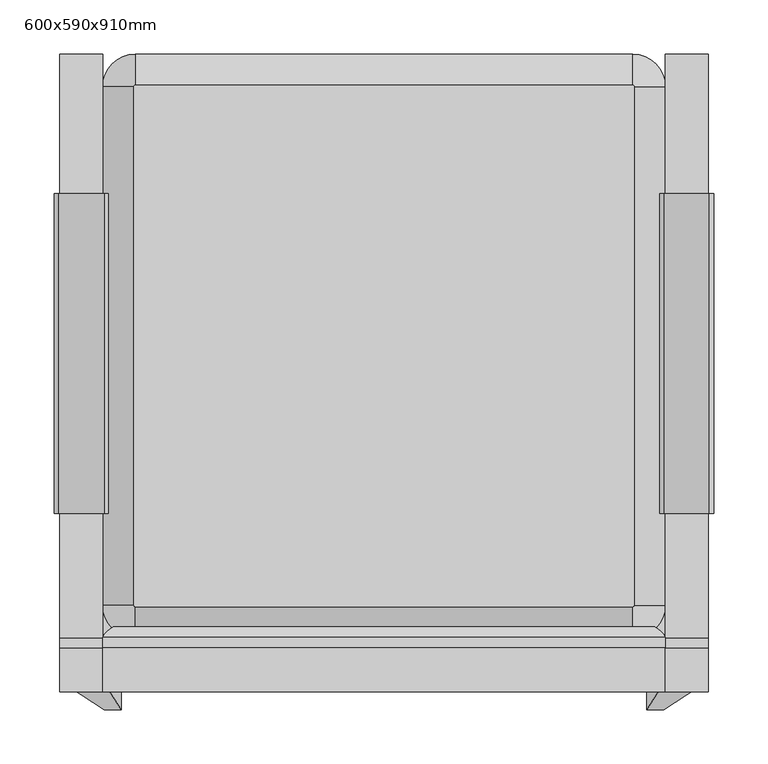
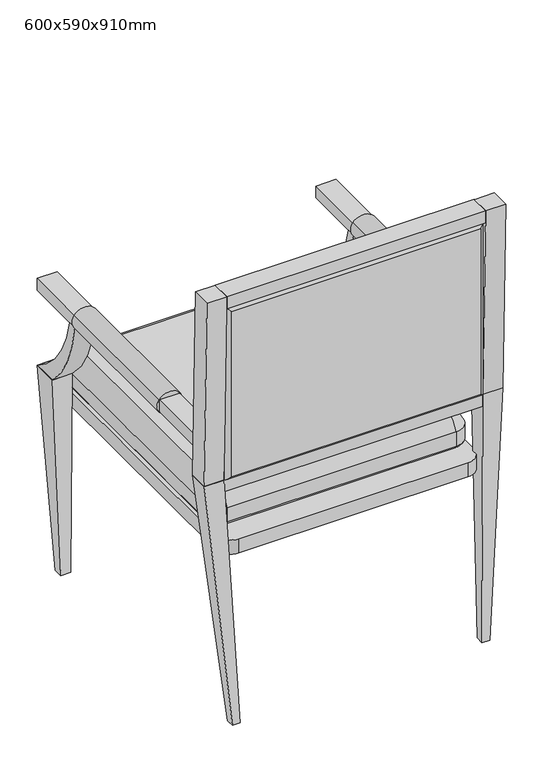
"""IFC4 building model written with IfcOpenShell, lengths in millimetres: furniture geometry, 의자 2 : 600x590x910mm."""

from ifc_helpers import new_model, si_unit, point, frame, frame_2d, origin, place, context, project, spatial, polyline, circle_curve, ellipse_curve, trimmed, segment, composite_curve, outline, extrude, faceted_brep, source, transform, mapped, element, save
from ifc_brep_helpers import plane_surface, cylinder_surface, revolved_surface, advanced_brep


def furniture_600x590x910mm_f1c21ba5(model_context):
    return source(origin(), model_context, "Body", "SolidModel", [
        extrude(outline(polyline([(-285.0, 505.0), (-295.0, 900.0), (-255.0, 900.0), (-245.0, 505.0), (-285.0, 505.0)])), frame((260.0, 0.0, 0.0), z_axis=(1.0, 0.0, 0.0), x_axis=(0.0, 1.0, 0.0)), (0.0, 0.0, 1.0), 40.0),
        faceted_brep([(260.0, 242.7525759, 411.2170586), (300.0, 242.7525759, 411.2170586), (300.0, 295.0, 411.2170586), (260.0, 295.0, 411.2170586), (270.2858385, 230.3179079, 0.0), (270.2858385, 250.3179079, 0.0), (290.2858385, 250.3179079, 0.0), (290.2858385, 230.3179079, 0.0)], [[[0, 1, 2, 3]], [[4, 5, 6, 7]], [[4, 0, 3, 5]], [[5, 3, 2, 6]], [[6, 2, 1, 7]], [[7, 1, 0, 4]]]),
        faceted_brep([(-260.0, 242.7525759, 411.2170586), (-260.0, 295.0, 411.2170586), (-300.0, 295.0, 411.2170586), (-300.0, 242.7525759, 411.2170586), (-270.2858385, 230.3179079, 0.0), (-290.2858385, 230.3179079, 0.0), (-290.2858385, 250.3179079, 0.0), (-270.2858385, 250.3179079, 0.0)], [[[0, 1, 2, 3]], [[4, 5, 6, 7]], [[4, 0, 3, 5]], [[5, 3, 2, 6]], [[6, 2, 1, 7]], [[7, 1, 0, 4]]]),
        extrude(outline(composite_curve([segment(trimmed(circle_curve(frame_2d((407.1028429, 609.2607604)), 227.57055), [point((183.0894066, 569.1816439))], [point((295.0, 411.2170586))], True, "CARTESIAN"), True, "CONTINUOUS"), segment(polyline([(295.0, 411.2170586), (242.7525759, 411.2170586)]), True, "CONTINUOUS"), segment(trimmed(circle_curve(frame_2d((407.9081208, 589.5396436)), 243.0541058), [point((242.7525759, 411.2170586))], [point((165.7080998, 569.1816439))], False, "CARTESIAN"), True, "CONTINUOUS"), segment(polyline([(165.7080998, 569.1816439), (183.0894066, 569.1816439)]), True, "CONTINUOUS")], self_intersect=False)), frame((260.0, 0.0, 0.0), z_axis=(1.0, 0.0, 0.0), x_axis=(0.0, 1.0, 0.0)), (0.0, 0.0, 1.0), 40.0),
        extrude(outline(composite_curve([segment(trimmed(circle_curve(frame_2d((407.1028429, 609.2607604)), 227.57055), [point((183.0894066, 569.1816439))], [point((295.0, 411.2170586))], True, "CARTESIAN"), True, "CONTINUOUS"), segment(polyline([(295.0, 411.2170586), (242.7525759, 411.2170586)]), True, "CONTINUOUS"), segment(trimmed(circle_curve(frame_2d((407.9081208, 589.5396436)), 243.0541058), [point((242.7525759, 411.2170586))], [point((165.7080998, 569.1816439))], False, "CARTESIAN"), True, "CONTINUOUS"), segment(polyline([(165.7080998, 569.1816439), (183.0894066, 569.1816439)]), True, "CONTINUOUS")], self_intersect=False)), frame((-300.0, 0.0, 0.0), z_axis=(1.0, 0.0, 0.0), x_axis=(0.0, 1.0, 0.0)), (0.0, 0.0, 1.0), 40.0),
        extrude(outline(composite_curve([segment(polyline([(230.0, -285.0), (-230.0, -285.0)]), True, "CONTINUOUS"), segment(trimmed(circle_curve(frame_2d((-230.0, -255.0)), 30.0), [point((-230.0, -285.0))], [point((-260.0, -255.0))], False, "CARTESIAN"), True, "CONTINUOUS"), segment(polyline([(-260.0, -255.0), (-260.0, 265.0)]), True, "CONTINUOUS"), segment(trimmed(circle_curve(frame_2d((-230.0, 265.0)), 30.0), [point((-260.0, 265.0))], [point((-230.0, 295.0))], False, "CARTESIAN"), True, "CONTINUOUS"), segment(polyline([(-230.0, 295.0), (230.0, 295.0)]), True, "CONTINUOUS"), segment(trimmed(circle_curve(frame_2d((230.0, 265.0)), 30.0), [point((230.0, 295.0))], [point((260.0, 265.0))], False, "CARTESIAN"), True, "CONTINUOUS"), segment(polyline([(260.0, 265.0), (260.0, -255.0)]), True, "CONTINUOUS"), segment(trimmed(circle_curve(frame_2d((230.0, -255.0)), 30.0), [point((260.0, -255.0))], [point((230.0, -285.0))], False, "CARTESIAN"), True, "CONTINUOUS")], self_intersect=False)), frame((0.0, 0.0, 340.0), z_axis=(0.0, 0.0, 1.0), x_axis=(1.0, 0.0, 0.0)), (0.0, 0.0, 1.0), 30.0),
        faceted_brep([(260.0, -285.0, 505.0), (300.0, -285.0, 505.0), (300.0, -245.0, 505.0), (260.0, -245.0, 505.0), (242.9406494, -311.5924294, 0.0), (242.9406494, -295.0, 0.0), (258.5439528, -295.0, 0.0), (258.5439528, -311.5924294, 0.0)], [[[0, 1, 2, 3]], [[4, 5, 6, 7]], [[3, 5, 4, 0]], [[2, 6, 5, 3]], [[1, 7, 6, 2]], [[0, 4, 7, 1]]]),
        advanced_brep(
        [(-250.3030294, -235.0, 865.3030294), (250.3030294, -235.0, 865.3030294), (250.3030294, -235.0, 514.6969706), (-250.3030294, -235.0, 514.6969706), (-250.3030294, -295.0, 514.6969706), (250.3030294, -295.0, 514.6969706), (250.3030294, -295.0, 865.3030294), (-250.3030294, -295.0, 865.3030294), (260.0, -244.6969706, 875.0), (-260.0, -244.6969706, 875.0), (-260.0, -285.3030294, 875.0), (260.0, -285.3030294, 875.0), (-260.0, -244.6969706, 505.0), (-260.0, -285.3030294, 505.0), (260.0, -244.6969706, 505.0), (260.0, -285.3030294, 505.0)],
        [
            (0, 1),
            (1, 2),
            (2, 3),
            (3, 0),
            (4, 5),
            (5, 6),
            (6, 7),
            (7, 4),
            (8, 9),
            (9, 10),
            (10, 11),
            (11, 8),
            (9, 12),
            (12, 13),
            (13, 10),
            (12, 14),
            (14, 15),
            (15, 13),
            (11, 15),
            (14, 8),
            (9, 0, ellipse_curve(frame((-242.3916398, -252.6083602, 857.3916398), z_axis=(-0.7071067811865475, 0.0, -0.7071067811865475), x_axis=(0.7071067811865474, 0.0, -0.7071067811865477)), 27.2999793, 19.3040005)),
            (3, 12, ellipse_curve(frame((-242.3916398, -252.6083602, 522.6083602), z_axis=(-0.7071067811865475, 0.0, 0.7071067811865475), x_axis=(-0.7071067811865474, 0.0, -0.7071067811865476)), 27.2999793, 19.3040005)),
            (7, 10, ellipse_curve(frame((-242.3916398, -277.3916398, 857.3916398), z_axis=(-0.7071067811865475, 0.0, -0.7071067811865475), x_axis=(0.7071067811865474, 0.0, -0.7071067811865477)), 27.2999793, 19.3040005)),
            (13, 4, ellipse_curve(frame((-242.3916398, -277.3916398, 522.6083602), z_axis=(-0.7071067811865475, 0.0, 0.7071067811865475), x_axis=(-0.7071067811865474, 0.0, -0.7071067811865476)), 27.2999793, 19.3040005)),
            (2, 14, ellipse_curve(frame((242.3916398, -252.6083602, 522.6083602), z_axis=(-0.7071067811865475, 0.0, -0.7071067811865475), x_axis=(0.7071067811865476, 0.0, -0.7071067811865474)), 27.2999793, 19.3040005)),
            (15, 5, ellipse_curve(frame((242.3916398, -277.3916398, 522.6083602), z_axis=(-0.7071067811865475, 0.0, -0.7071067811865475), x_axis=(0.7071067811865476, 0.0, -0.7071067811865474)), 27.2999793, 19.3040005)),
            (1, 8, ellipse_curve(frame((242.3916398, -252.6083602, 857.3916398), z_axis=(0.7071067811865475, 0.0, -0.7071067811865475), x_axis=(0.7071067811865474, 0.0, 0.7071067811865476)), 27.2999793, 19.3040005)),
            (11, 6, ellipse_curve(frame((242.3916398, -277.3916398, 857.3916398), z_axis=(0.7071067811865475, 0.0, -0.7071067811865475), x_axis=(0.7071067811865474, 0.0, 0.7071067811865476)), 27.2999793, 19.3040005)),
        ],
        [
            plane_surface(frame((-260.0, -235.0, 875.0), z_axis=(0.0, 1.0, 0.0), x_axis=(-1.0, 0.0, 0.0))),
            plane_surface(frame((-260.0, -295.0, 875.0), z_axis=(0.0, -1.0, 0.0), x_axis=(1.0, 0.0, 0.0))),
            plane_surface(frame((260.0, -235.0, 875.0), z_axis=(0.0, 0.0, 1.0), x_axis=(0.0, -1.0, 0.0))),
            plane_surface(frame((-260.0, -235.0, 875.0), z_axis=(-1.0, 0.0, 0.0), x_axis=(0.0, -1.0, 0.0))),
            plane_surface(frame((-260.0, -235.0, 505.0), z_axis=(0.0, 0.0, -1.0), x_axis=(0.0, -1.0, 0.0))),
            plane_surface(frame((260.0, -235.0, 505.0), z_axis=(1.0, 0.0, 0.0), x_axis=(0.0, -1.0, 0.0))),
            cylinder_surface(frame((-242.3916398, -252.6083602, 875.0), z_axis=(0.0, 0.0, -1.0), x_axis=(0.0, 1.0, 0.0)), 19.3040005),
            cylinder_surface(frame((-242.3916398, -277.3916398, 875.0), z_axis=(0.0, 0.0, -1.0), x_axis=(0.0, -1.0, 0.0)), 19.3040005),
            cylinder_surface(frame((-260.0, -252.6083602, 522.6083602), z_axis=(1.0, 0.0, 0.0), x_axis=(0.0, 1.0, 0.0)), 19.3040005),
            cylinder_surface(frame((-260.0, -277.3916398, 522.6083602), z_axis=(1.0, 0.0, 0.0), x_axis=(0.0, -1.0, 0.0)), 19.3040005),
            cylinder_surface(frame((242.3916398, -252.6083602, 505.0), z_axis=(0.0, 0.0, 1.0), x_axis=(0.0, 1.0, 0.0)), 19.3040005),
            cylinder_surface(frame((242.3916398, -277.3916398, 505.0), z_axis=(0.0, 0.0, 1.0), x_axis=(0.0, -1.0, 0.0)), 19.3040005),
            cylinder_surface(frame((260.0, -252.6083602, 857.3916398), z_axis=(-1.0, 0.0, 0.0), x_axis=(0.0, 1.0, 0.0)), 19.3040005),
            cylinder_surface(frame((260.0, -277.3916398, 857.3916398), z_axis=(-1.0, 0.0, 0.0), x_axis=(0.0, -1.0, 0.0)), 19.3040005),
        ],
        [
            (0, [[1, 2, 3, 4]]),
            (1, [[5, 6, 7, 8]]),
            (2, [[9, 10, 11, 12]]),
            (3, [[13, 14, 15, -10]]),
            (4, [[16, 17, 18, -14]]),
            (5, [[19, -17, 20, -12]]),
            (6, [[-13, 21, -4, 22]]),
            (7, [[-8, 23, -15, 24]]),
            (8, [[-3, 25, -16, -22]]),
            (9, [[-18, 26, -5, -24]]),
            (10, [[-2, 27, -20, -25]]),
            (11, [[-19, 28, -6, -26]]),
            (12, [[-9, -27, -1, -21]]),
            (13, [[-7, -28, -11, -23]]),
        ],
    ),
        extrude(outline(composite_curve([segment(trimmed(circle_curve(frame_2d((582.5283009, 278.7076401)), 23.8874144), [point((595.8749578, 258.8966504))], [point((569.1816439, 258.8966504))], False, "CARTESIAN"), True, "CONTINUOUS"), segment(trimmed(circle_curve(frame_2d((589.4784621, 279.9386265)), 29.2356903), [point((569.1816439, 258.8966504))], [point((569.1816439, 300.9806026))], False, "CARTESIAN"), True, "CONTINUOUS"), segment(trimmed(circle_curve(frame_2d((582.5283009, 281.2838217)), 23.7927811), [point((569.1816439, 300.9806026))], [point((595.8749578, 300.9806026))], False, "CARTESIAN"), True, "CONTINUOUS"), segment(trimmed(circle_curve(frame_2d((578.2866722, 279.9386265)), 27.4246704), [point((595.8749578, 300.9806026))], [point((595.8749578, 258.8966504))], False, "CARTESIAN"), True, "CONTINUOUS")], self_intersect=False), holes=[polyline([(595.0, 260.0), (595.0, 300.0), (570.0, 300.0), (570.0, 260.0), (595.0, 260.0)])]), frame((0.0, -129.9086932, 0.0), z_axis=(0.0, 1.0, 0.0), x_axis=(0.0, 0.0, 1.0)), (0.0, 0.0, 1.0), 295.616793),
        extrude(outline(composite_curve([segment(trimmed(circle_curve(frame_2d((578.2866722, -279.9386265)), 27.4246704), [point((595.8749578, -258.8966504))], [point((595.8749578, -300.9806026))], False, "CARTESIAN"), True, "CONTINUOUS"), segment(trimmed(circle_curve(frame_2d((582.5283009, -281.2838217)), 23.7927811), [point((595.8749578, -300.9806026))], [point((569.1816439, -300.9806026))], False, "CARTESIAN"), True, "CONTINUOUS"), segment(trimmed(circle_curve(frame_2d((589.4784621, -279.9386265)), 29.2356903), [point((569.1816439, -300.9806026))], [point((569.1816439, -258.8966504))], False, "CARTESIAN"), True, "CONTINUOUS"), segment(trimmed(circle_curve(frame_2d((582.5283009, -278.7076401)), 23.8874144), [point((569.1816439, -258.8966504))], [point((595.8749578, -258.8966504))], False, "CARTESIAN"), True, "CONTINUOUS")], self_intersect=False), holes=[polyline([(595.0, -260.0), (570.0, -260.0), (570.0, -300.0), (595.0, -300.0), (595.0, -260.0)])]), frame((0.0, -129.9086932, 0.0), z_axis=(0.0, 1.0, 0.0), x_axis=(0.0, 0.0, 1.0)), (0.0, 0.0, 1.0), 295.616793),
        faceted_brep([(-300.0, 295.0, 595.0), (-300.0, 295.0, 570.0), (-300.0, -245.0, 570.0), (-300.0, -245.0, 595.0), (-260.0, 295.0, 595.0), (-260.0, -235.0, 595.0), (-260.0, -244.6969706, 595.0), (-260.0, -245.0, 595.0), (-260.0, -245.0, 570.0), (-260.0, -244.6969706, 570.0), (-260.0, -235.0, 570.0), (-260.0, 295.0, 570.0)], [[[0, 1, 2, 3]], [[4, 5, 6, 7, 8, 9, 10, 11]], [[3, 7, 6, 5, 4, 0]], [[2, 8, 7, 3]], [[1, 11, 10, 9, 8, 2]], [[0, 4, 11, 1]]]),
        faceted_brep([(300.0, 295.0, 595.0), (300.0, -245.0, 595.0), (300.0, -245.0, 570.0), (300.0, 295.0, 570.0), (260.0, -245.0, 595.0), (260.0, -244.6969706, 595.0), (260.0, -235.0, 595.0), (260.0, 295.0, 595.0), (260.0, 295.0, 570.0), (260.0, -235.0, 570.0), (260.0, -244.6969706, 570.0), (260.0, -245.0, 570.0)], [[[0, 1, 2, 3]], [[4, 5, 6, 7, 8, 9, 10, 11]], [[3, 8, 7, 0]], [[2, 11, 10, 9, 8, 3]], [[1, 4, 11, 2]], [[0, 7, 6, 5, 4, 1]]]),
        faceted_brep([(260.0, -254.4011762, 900.0), (260.0, -254.4011762, 875.0), (-260.0, -254.4011762, 875.0), (-260.0, -254.4011762, 900.0), (260.0, -295.0, 900.0), (-260.0, -295.0, 900.0), (-260.0, -295.0, 875.0), (260.0, -295.0, 875.0), (-260.0, -285.3030294, 875.0), (260.0, -285.3030294, 875.0)], [[[0, 1, 2, 3]], [[4, 5, 6, 7]], [[3, 5, 4, 0]], [[2, 8, 6, 5, 3]], [[1, 9, 7, 6, 8, 2]], [[0, 4, 7, 9, 1]]]),
        extrude(outline(polyline([(260.0, -245.0), (260.0, -285.0), (-260.0, -285.0), (-260.0, -245.0), (260.0, -245.0)])), frame((0.0, 0.0, 480.0), z_axis=(0.0, 0.0, 1.0), x_axis=(1.0, 0.0, 0.0)), (0.0, 0.0, 1.0), 25.0),
        faceted_brep([(-260.0, -285.0, 505.0), (-260.0, -245.0, 505.0), (-300.0, -245.0, 505.0), (-300.0, -285.0, 505.0), (-242.9406494, -311.5924294, 0.0), (-258.5439528, -311.5924294, 0.0), (-258.5439528, -295.0, 0.0), (-242.9406494, -295.0, 0.0)], [[[0, 1, 2, 3]], [[4, 5, 6, 7]], [[3, 5, 4, 0]], [[2, 6, 5, 3]], [[1, 7, 6, 2]], [[0, 4, 7, 1]]]),
        faceted_brep([(-300.0, -285.0, 505.0), (-300.0, -295.0, 900.0), (-300.0, -255.0, 900.0), (-300.0, -245.0, 505.0), (-260.0, -295.0, 900.0), (-260.0, -294.3670886, 875.0), (-260.0, -285.3030294, 516.9696624), (-260.0, -285.0, 505.0), (-260.0, -245.0, 505.0), (-260.0, -255.0, 900.0)], [[[0, 1, 2, 3]], [[4, 5, 6, 7, 8, 9]], [[3, 8, 7, 0]], [[2, 9, 8, 3]], [[1, 4, 9, 2]], [[0, 7, 6, 5, 4, 1]]]),
        advanced_brep(
        [(230.0, 266.2170586, 440.0), (-230.0, 266.2170586, 440.0), (-231.2170586, 265.0, 440.0), (-231.2170586, -215.0, 440.0), (-230.0, -216.2170586, 440.0), (230.0, -216.2170586, 440.0), (231.2170586, -215.0, 440.0), (231.2170586, 265.0, 440.0), (248.7075006, 265.0, 370.0), (248.7075006, -215.0, 370.0), (230.0, -233.7075006, 370.0), (-230.0, -233.7075006, 370.0), (-248.7075006, -215.0, 370.0), (-248.7075006, 265.0, 370.0), (-230.0, 283.7075006, 370.0), (230.0, 283.7075006, 370.0), (-230.0, -245.0, 411.2170586), (-230.0, -245.0, 381.2924994), (230.0, -245.0, 381.2924994), (230.0, -245.0, 411.2170586), (-260.0, -215.0, 411.2170586), (-260.0, -215.0, 381.2924994), (-260.0, 265.0, 411.2170586), (-260.0, 265.0, 381.2924994), (-230.0, 295.0, 411.2170586), (-230.0, 295.0, 381.2924994), (230.0, 295.0, 411.2170586), (230.0, 295.0, 381.2924994), (260.0, 265.0, 411.2170586), (260.0, 265.0, 381.2924994), (260.0, -215.0, 411.2170586), (260.0, -215.0, 381.2924994)],
        [
            (0, 1),
            (1, 2, circle_curve(frame((-230.0, 265.0, 440.0), z_axis=(0.0, 0.0, 1.0), x_axis=(-1.0, 0.0, 0.0)), 1.2170586)),
            (2, 3),
            (3, 4, circle_curve(frame((-230.0, -215.0, 440.0), z_axis=(0.0, 0.0, 1.0), x_axis=(0.0, -1.0, 0.0)), 1.2170586)),
            (4, 5),
            (5, 6, circle_curve(frame((230.0, -215.0, 440.0), z_axis=(0.0, 0.0, 1.0), x_axis=(1.0, 0.0, 0.0)), 1.2170586)),
            (6, 7),
            (7, 0, circle_curve(frame((230.0, 265.0, 440.0), z_axis=(0.0, 0.0, 1.0), x_axis=(0.0, 1.0, 0.0)), 1.2170586)),
            (8, 9),
            (9, 10, circle_curve(frame((230.0, -215.0, 370.0), z_axis=(0.0, 0.0, -1.0), x_axis=(1.0, 0.0, 0.0)), 18.7075006)),
            (10, 11),
            (11, 12, circle_curve(frame((-230.0, -215.0, 370.0), z_axis=(0.0, 0.0, -1.0), x_axis=(0.0, -1.0, 0.0)), 18.7075006)),
            (12, 13),
            (13, 14, circle_curve(frame((-230.0, 265.0, 370.0), z_axis=(0.0, 0.0, -1.0), x_axis=(-1.0, 0.0, 0.0)), 18.7075006)),
            (14, 15),
            (15, 8, circle_curve(frame((230.0, 265.0, 370.0), z_axis=(0.0, 0.0, -1.0), x_axis=(0.0, 1.0, 0.0)), 18.7075006)),
            (16, 17),
            (17, 18),
            (18, 19),
            (19, 16),
            (20, 21),
            (21, 17, circle_curve(frame((-230.0, -215.0, 381.2924994), z_axis=(0.0, 0.0, 1.0), x_axis=(1.0, 0.0, 0.0)), 30.0)),
            (16, 20, circle_curve(frame((-230.0, -215.0, 411.2170586), z_axis=(0.0, 0.0, -1.0), x_axis=(1.0, 0.0, 0.0)), 30.0)),
            (22, 23),
            (23, 21),
            (20, 22),
            (24, 25),
            (25, 23, circle_curve(frame((-230.0, 265.0, 381.2924994), z_axis=(0.0, 0.0, 1.0), x_axis=(1.0, 0.0, 0.0)), 30.0)),
            (22, 24, circle_curve(frame((-230.0, 265.0, 411.2170586), z_axis=(0.0, 0.0, -1.0), x_axis=(1.0, 0.0, 0.0)), 30.0)),
            (26, 27),
            (27, 25),
            (24, 26),
            (28, 29),
            (29, 27, circle_curve(frame((230.0, 265.0, 381.2924994), z_axis=(0.0, 0.0, 1.0), x_axis=(1.0, 0.0, 0.0)), 30.0)),
            (26, 28, circle_curve(frame((230.0, 265.0, 411.2170586), z_axis=(0.0, 0.0, -1.0), x_axis=(1.0, 0.0, 0.0)), 30.0)),
            (30, 31),
            (31, 29),
            (28, 30),
            (18, 31, circle_curve(frame((230.0, -215.0, 381.2924994), z_axis=(0.0, 0.0, 1.0), x_axis=(1.0, 0.0, 0.0)), 30.0)),
            (30, 19, circle_curve(frame((230.0, -215.0, 411.2170586), z_axis=(0.0, 0.0, -1.0), x_axis=(1.0, 0.0, 0.0)), 30.0)),
            (26, 0, circle_curve(frame((230.0, 246.7783488, 391.7783488), z_axis=(1.0, 0.0, 0.0), x_axis=(0.0, 1.0, 0.0)), 51.9922214)),
            (7, 28, circle_curve(frame((211.7783488, 265.0, 391.7783488), z_axis=(0.0, 1.0, 0.0), x_axis=(1.0, 0.0, 0.0)), 51.9922214)),
            (6, 30, circle_curve(frame((211.7783488, -215.0, 391.7783488), z_axis=(0.0, 1.0, 0.0), x_axis=(1.0, 0.0, 0.0)), 51.9922214)),
            (5, 19, circle_curve(frame((230.0, -196.7783488, 391.7783488), z_axis=(1.0, 0.0, 0.0), x_axis=(0.0, -1.0, 0.0)), 51.9922214)),
            (4, 16, circle_curve(frame((-230.0, -196.7783488, 391.7783488), z_axis=(1.0, 0.0, 0.0), x_axis=(0.0, -1.0, 0.0)), 51.9922214)),
            (3, 20, circle_curve(frame((-211.7783488, -215.0, 391.7783488), z_axis=(0.0, -1.0, 0.0), x_axis=(-1.0, 0.0, 0.0)), 51.9922214)),
            (2, 22, circle_curve(frame((-211.7783488, 265.0, 391.7783488), z_axis=(0.0, -1.0, 0.0), x_axis=(-1.0, 0.0, 0.0)), 51.9922214)),
            (1, 24, circle_curve(frame((-230.0, 246.7783488, 391.7783488), z_axis=(-1.0, 0.0, 0.0), x_axis=(0.0, 1.0, 0.0)), 51.9922214)),
            (15, 27, circle_curve(frame((230.0, 272.8310008, 392.1689992), z_axis=(1.0, 0.0, 0.0), x_axis=(0.0, 1.0, 0.0)), 24.6933751)),
            (29, 8, circle_curve(frame((237.8310008, 265.0, 392.1689992), z_axis=(0.0, 1.0, 0.0), x_axis=(1.0, 0.0, 0.0)), 24.6933751)),
            (31, 9, circle_curve(frame((237.8310008, -215.0, 392.1689992), z_axis=(0.0, 1.0, 0.0), x_axis=(1.0, 0.0, 0.0)), 24.6933751)),
            (18, 10, circle_curve(frame((230.0, -222.8310008, 392.1689992), z_axis=(1.0, 0.0, 0.0), x_axis=(0.0, -1.0, 0.0)), 24.6933751)),
            (17, 11, circle_curve(frame((-230.0, -222.8310008, 392.1689992), z_axis=(1.0, 0.0, 0.0), x_axis=(0.0, -1.0, 0.0)), 24.6933751)),
            (21, 12, circle_curve(frame((-237.8310008, -215.0, 392.1689992), z_axis=(0.0, -1.0, 0.0), x_axis=(-1.0, 0.0, 0.0)), 24.6933751)),
            (23, 13, circle_curve(frame((-237.8310008, 265.0, 392.1689992), z_axis=(0.0, -1.0, 0.0), x_axis=(-1.0, 0.0, 0.0)), 24.6933751)),
            (25, 14, circle_curve(frame((-230.0, 272.8310008, 392.1689992), z_axis=(-1.0, 0.0, 0.0), x_axis=(0.0, 1.0, 0.0)), 24.6933751)),
        ],
        [
            plane_surface(frame((-260.0, -245.0, 440.0), z_axis=(0.0, 0.0, 1.0), x_axis=(-1.0, 0.0, 0.0))),
            plane_surface(frame((-260.0, -245.0, 370.0), z_axis=(0.0, 0.0, -1.0), x_axis=(1.0, 0.0, 0.0))),
            plane_surface(frame((230.0, -245.0, 440.0), z_axis=(0.0, -1.0, 0.0), x_axis=(0.0, 0.0, -1.0))),
            cylinder_surface(frame((-230.0, -215.0, 370.0), z_axis=(0.0, 0.0, 1.0), x_axis=(1.0, 0.0, 0.0)), 30.0),
            plane_surface(frame((-260.0, -215.0, 440.0), z_axis=(-1.0, 0.0, 0.0), x_axis=(0.0, 0.0, -1.0))),
            cylinder_surface(frame((-230.0, 265.0, 370.0), z_axis=(0.0, 0.0, 1.0), x_axis=(1.0, 0.0, 0.0)), 30.0),
            plane_surface(frame((-230.0, 295.0, 440.0), z_axis=(0.0, 1.0, 0.0), x_axis=(0.0, 0.0, -1.0))),
            cylinder_surface(frame((230.0, 265.0, 370.0), z_axis=(0.0, 0.0, 1.0), x_axis=(1.0, 0.0, 0.0)), 30.0),
            plane_surface(frame((260.0, 265.0, 440.0), z_axis=(1.0, 0.0, 0.0), x_axis=(0.0, 0.0, -1.0))),
            cylinder_surface(frame((230.0, -215.0, 370.0), z_axis=(0.0, 0.0, 1.0), x_axis=(1.0, 0.0, 0.0)), 30.0),
            revolved_surface(trimmed(ellipse_curve(frame((230.0, 246.7783488, 391.7783488), z_axis=(1.0, 0.0, 0.0), x_axis=(0.0, 1.0, 0.0)), 51.9922214, 51.9922214), [point((230.0, 295.343145, 410.343145))], [point((230.0, 265.343145, 440.343145))], True, "CARTESIAN"), (230.0, 265.0, 0.0), (0.0, 0.0, 1.0)),
            cylinder_surface(frame((211.7783488, 265.0, 391.7783488), z_axis=(0.0, -1.0, 0.0), x_axis=(1.0, 0.0, 0.0)), 51.9922214),
            revolved_surface(trimmed(ellipse_curve(frame((211.7783488, -215.0, 391.7783488), z_axis=(0.0, -1.0, 0.0), x_axis=(1.0, 0.0, 0.0)), 51.9922214, 51.9922214), [point((260.343145, -215.0, 410.343145))], [point((230.343145, -215.0, 440.343145))], True, "CARTESIAN"), (230.0, -215.0, 0.0), (0.0, 0.0, 1.0)),
            cylinder_surface(frame((230.0, -196.7783488, 391.7783488), z_axis=(-1.0, 0.0, 0.0), x_axis=(0.0, -1.0, 0.0)), 51.9922214),
            revolved_surface(trimmed(ellipse_curve(frame((-230.0, -196.7783488, 391.7783488), z_axis=(-1.0, 0.0, 0.0), x_axis=(0.0, -1.0, 0.0)), 51.9922214, 51.9922214), [point((-230.0, -245.343145, 410.343145))], [point((-230.0, -215.343145, 440.343145))], True, "CARTESIAN"), (-230.0, -215.0, 0.0), (0.0, 0.0, 1.0)),
            cylinder_surface(frame((-211.7783488, -215.0, 391.7783488), z_axis=(0.0, 1.0, 0.0), x_axis=(-1.0, 0.0, 0.0)), 51.9922214),
            revolved_surface(trimmed(ellipse_curve(frame((-211.7783488, 265.0, 391.7783488), z_axis=(0.0, 1.0, 0.0), x_axis=(-1.0, 0.0, 0.0)), 51.9922214, 51.9922214), [point((-260.343145, 265.0, 410.343145))], [point((-230.343145, 265.0, 440.343145))], True, "CARTESIAN"), (-230.0, 265.0, 0.0), (0.0, 0.0, 1.0)),
            cylinder_surface(frame((-230.0, 246.7783488, 391.7783488), z_axis=(1.0, 0.0, 0.0), x_axis=(0.0, 1.0, 0.0)), 51.9922214),
            revolved_surface(trimmed(ellipse_curve(frame((230.0, 272.8310008, 392.1689992), z_axis=(1.0, 0.0, 0.0), x_axis=(0.0, 1.0, 0.0)), 24.6933751, 24.6933751), [point((230.0, 283.7075006, 370.0))], [point((230.0, 295.0, 381.2924994))], True, "CARTESIAN"), (230.0, 265.0, 0.0), (0.0, 0.0, 1.0)),
            cylinder_surface(frame((237.8310008, 265.0, 392.1689992), z_axis=(0.0, -1.0, 0.0), x_axis=(1.0, 0.0, 0.0)), 24.6933751),
            revolved_surface(trimmed(ellipse_curve(frame((237.8310008, -215.0, 392.1689992), z_axis=(0.0, -1.0, 0.0), x_axis=(1.0, 0.0, 0.0)), 24.6933751, 24.6933751), [point((248.7075006, -215.0, 370.0))], [point((260.0, -215.0, 381.2924994))], True, "CARTESIAN"), (230.0, -215.0, 0.0), (0.0, 0.0, 1.0)),
            cylinder_surface(frame((230.0, -222.8310008, 392.1689992), z_axis=(-1.0, 0.0, 0.0), x_axis=(0.0, -1.0, 0.0)), 24.6933751),
            revolved_surface(trimmed(ellipse_curve(frame((-230.0, -222.8310008, 392.1689992), z_axis=(-1.0, 0.0, 0.0), x_axis=(0.0, -1.0, 0.0)), 24.6933751, 24.6933751), [point((-230.0, -233.7075006, 370.0))], [point((-230.0, -245.0, 381.2924994))], True, "CARTESIAN"), (-230.0, -215.0, 0.0), (0.0, 0.0, 1.0)),
            cylinder_surface(frame((-237.8310008, -215.0, 392.1689992), z_axis=(0.0, 1.0, 0.0), x_axis=(-1.0, 0.0, 0.0)), 24.6933751),
            revolved_surface(trimmed(ellipse_curve(frame((-237.8310008, 265.0, 392.1689992), z_axis=(0.0, 1.0, 0.0), x_axis=(-1.0, 0.0, 0.0)), 24.6933751, 24.6933751), [point((-248.7075006, 265.0, 370.0))], [point((-260.0, 265.0, 381.2924994))], True, "CARTESIAN"), (-230.0, 265.0, 0.0), (0.0, 0.0, 1.0)),
            cylinder_surface(frame((-230.0, 272.8310008, 392.1689992), z_axis=(1.0, 0.0, 0.0), x_axis=(0.0, 1.0, 0.0)), 24.6933751),
        ],
        [
            (0, [[1, 2, 3, 4, 5, 6, 7, 8]]),
            (1, [[9, 10, 11, 12, 13, 14, 15, 16]]),
            (2, [[17, 18, 19, 20]]),
            (3, [[21, 22, -17, 23]]),
            (4, [[24, 25, -21, 26]]),
            (5, [[27, 28, -24, 29]]),
            (6, [[30, 31, -27, 32]]),
            (7, [[33, 34, -30, 35]]),
            (8, [[36, 37, -33, 38]]),
            (9, [[-19, 39, -36, 40]]),
            (10, [[-35, 41, -8, 42]]),
            (11, [[-7, 43, -38, -42]]),
            (12, [[-6, 44, -40, -43]]),
            (13, [[-5, 45, -20, -44]]),
            (14, [[-4, 46, -23, -45]]),
            (15, [[-3, 47, -26, -46]]),
            (16, [[-2, 48, -29, -47]]),
            (17, [[-1, -41, -32, -48]]),
            (18, [[-16, 49, -34, 50]]),
            (19, [[-37, 51, -9, -50]]),
            (20, [[-39, 52, -10, -51]]),
            (21, [[-18, 53, -11, -52]]),
            (22, [[-22, 54, -12, -53]]),
            (23, [[-25, 55, -13, -54]]),
            (24, [[-28, 56, -14, -55]]),
            (25, [[-15, -56, -31, -49]]),
        ],
    ),
    ])


if __name__ == "__main__":
    model = new_model("IFC4")
    model_context = context("Model", 3, world=origin())
    ifc_project = project(units=[si_unit("LENGTHUNIT", "METRE", prefix="MILLI")], contexts=[model_context])
    site = spatial("IfcSite", under=ifc_project)
    building = spatial("IfcBuilding", under=site)
    placement = place(None, origin())
    furniture_600x590x910mm_shape = furniture_600x590x910mm_f1c21ba5(model_context)
    element("IfcFurniture", 1, ObjectType="의자 2 : 600x590x910mm", at=placement, inside=building, context=model_context, shape_type="MappedRepresentation", body=[
        mapped(furniture_600x590x910mm_shape, transform((0.0, 0.0, 0.0), x_axis=(1.0, 0.0, 0.0), y_axis=(0.0, 1.0, 0.0), z_axis=(0.0, 0.0, 1.0))),
    ])
    save(model, "model.ifc")
